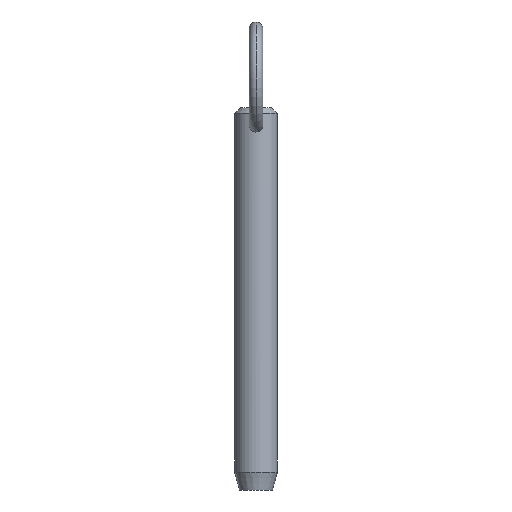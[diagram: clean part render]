
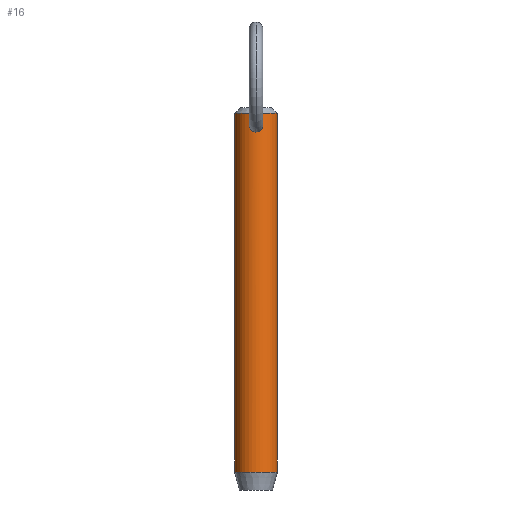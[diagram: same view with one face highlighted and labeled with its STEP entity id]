
A CAD part, front view. The second image highlights one B-rep face of the part: STEP entity #16.
In plain terms, the highlighted cylindrical face has radius 4.76 mm (diameter 9.52 mm), a partial arc.
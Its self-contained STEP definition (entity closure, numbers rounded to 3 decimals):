
#4 = CARTESIAN_POINT ( 'NONE',  ( 0.512, -4.733, 67.008 ) ) ;
#14 = AXIS2_PLACEMENT_3D ( 'NONE', #353, #233, #114 ) ;
#15 = DIRECTION ( 'NONE',  ( 1., 0., 0. ) ) ;
#16 = ADVANCED_FACE ( 'NONE', ( #397, #152 ), #157, .T. ) ;
#24 = CARTESIAN_POINT ( 'NONE',  ( 0., -4.76, 66.926 ) ) ;
#26 = CARTESIAN_POINT ( 'NONE',  ( -0.208, -4.757, 70.234 ) ) ;
#29 = CARTESIAN_POINT ( 'NONE',  ( -1.483, -4.524, 68.126 ) ) ;
#31 = CARTESIAN_POINT ( 'NONE',  ( -1.353, -4.564, 67.735 ) ) ;
#69 = CARTESIAN_POINT ( 'NONE',  ( -0.777, -4.7, 69.985 ) ) ;
#70 = CARTESIAN_POINT ( 'NONE',  ( -0.416, -4.746, 66.967 ) ) ;
#72 = CARTESIAN_POINT ( 'NONE',  ( -0.961, -4.663, 67.257 ) ) ;
#84 = CARTESIAN_POINT ( 'NONE',  ( 1.492, -4.52, 68.648 ) ) ;
#88 = CARTESIAN_POINT ( 'NONE',  ( 0., -4.76, 66.926 ) ) ;
#89 = CARTESIAN_POINT ( 'NONE',  ( 1.503, -4.517, 68.44 ) ) ;
#91 = CARTESIAN_POINT ( 'NONE',  ( 0.209, -4.756, 70.234 ) ) ;
#92 = CARTESIAN_POINT ( 'NONE',  ( 0.104, -4.76, 70.248 ) ) ;
#98 = EDGE_LOOP ( 'NONE', ( #417, #253 ) ) ;
#103 = CARTESIAN_POINT ( 'NONE',  ( -4.76, 0., 66. ) ) ;
#110 = CARTESIAN_POINT ( 'NONE',  ( -1.508, -4.515, 68.337 ) ) ;
#112 = VERTEX_POINT ( 'NONE', #476 ) ;
#114 = DIRECTION ( 'NONE',  ( -1., 0., 0. ) ) ;
#115 = CARTESIAN_POINT ( 'NONE',  ( -0.703, -4.709, 67.089 ) ) ;
#116 = CARTESIAN_POINT ( 'NONE',  ( 4.76, 0., -8.7 ) ) ;
#120 = DIRECTION ( 'NONE',  ( 0., 0., -1. ) ) ;
#122 = VECTOR ( 'NONE', #340, 1000. ) ;
#124 = CARTESIAN_POINT ( 'NONE',  ( 0.105, -4.76, 66.926 ) ) ;
#131 = CARTESIAN_POINT ( 'NONE',  ( 0.409, -4.743, 70.178 ) ) ;
#132 = CARTESIAN_POINT ( 'NONE',  ( 1.404, -4.548, 69.053 ) ) ;
#145 = ORIENTED_EDGE ( 'NONE', *, *, #438, .T. ) ;
#147 = DIRECTION ( 'NONE',  ( 0., 0., -1. ) ) ;
#151 = VECTOR ( 'NONE', #147, 1000. ) ;
#152 = FACE_BOUND ( 'NONE', #98, .T. ) ;
#157 = CYLINDRICAL_SURFACE ( 'NONE', #526, 4.76 ) ;
#161 = CARTESIAN_POINT ( 'NONE',  ( 0., 0., 66. ) ) ;
#169 = CARTESIAN_POINT ( 'NONE',  ( 0.687, -4.711, 70.035 ) ) ;
#172 = EDGE_CURVE ( 'NONE', #112, #305, #228, .T. ) ;
#190 = CARTESIAN_POINT ( 'NONE',  ( -0.103, -4.76, 70.248 ) ) ;
#194 = CARTESIAN_POINT ( 'NONE',  ( -1.487, -4.522, 68.753 ) ) ;
#207 = ORIENTED_EDGE ( 'NONE', *, *, #385, .T. ) ;
#211 = CARTESIAN_POINT ( 'NONE',  ( 0.506, -4.734, 70.137 ) ) ;
#213 = CARTESIAN_POINT ( 'NONE',  ( 1.178, -4.613, 67.476 ) ) ;
#228 = B_SPLINE_CURVE_WITH_KNOTS ( 'NONE', 3,
 ( #337, #92, #91, #131, #211, #169, #250, #521, #289, #524, #373, #132, #255, #372, #84, #89, #412, #366, #292, #446, #525, #370, #213, #489, #331, #4, #487, #483, #124, #88 ),
 .UNSPECIFIED., .F., .F.,
 ( 4, 2, 2, 2, 2, 2, 2, 2, 2, 2, 2, 2, 2, 2, 4 ),
 ( 0.004, 0.005, 0.005, 0.005, 0.006, 0.006, 0.007, 0.007, 0.007, 0.007, 0.008, 0.008, 0.009, 0.009, 0.009 ),
 .UNSPECIFIED. ) ;
#231 = LINE ( 'NONE', #375, #122 ) ;
#233 = DIRECTION ( 'NONE',  ( 0., 0., 1. ) ) ;
#237 = CIRCLE ( 'NONE', #313, 4.76 ) ;
#245 = DIRECTION ( 'NONE',  ( -1., 0., 0. ) ) ;
#250 = CARTESIAN_POINT ( 'NONE',  ( 0.77, -4.698, 69.975 ) ) ;
#253 = ORIENTED_EDGE ( 'NONE', *, *, #426, .T. ) ;
#255 = CARTESIAN_POINT ( 'NONE',  ( 1.434, -4.539, 68.954 ) ) ;
#259 = CARTESIAN_POINT ( 'NONE',  ( 0., -4.76, 66.926 ) ) ;
#266 = DIRECTION ( 'NONE',  ( 0., 0., -1. ) ) ;
#269 = EDGE_CURVE ( 'NONE', #441, #516, #231, .T. ) ;
#270 = CARTESIAN_POINT ( 'NONE',  ( -4.76, 0., 71.05 ) ) ;
#275 = CARTESIAN_POINT ( 'NONE',  ( -0.793, -4.694, 67.139 ) ) ;
#278 = CARTESIAN_POINT ( 'NONE',  ( -1.292, -4.582, 69.345 ) ) ;
#280 = CARTESIAN_POINT ( 'NONE',  ( -0.21, -4.76, 66.926 ) ) ;
#289 = CARTESIAN_POINT ( 'NONE',  ( 0.997, -4.655, 69.764 ) ) ;
#292 = CARTESIAN_POINT ( 'NONE',  ( 1.45, -4.534, 68.028 ) ) ;
#305 = VERTEX_POINT ( 'NONE', #259 ) ;
#310 = LINE ( 'NONE', #103, #151 ) ;
#313 = AXIS2_PLACEMENT_3D ( 'NONE', #460, #266, #15 ) ;
#317 = CARTESIAN_POINT ( 'NONE',  ( -1.19, -4.611, 69.524 ) ) ;
#318 = EDGE_LOOP ( 'NONE', ( #467, #369, #207, #145 ) ) ;
#319 = CARTESIAN_POINT ( 'NONE',  ( 0., -4.76, 70.248 ) ) ;
#320 = VERTEX_POINT ( 'NONE', #350 ) ;
#331 = CARTESIAN_POINT ( 'NONE',  ( 0.797, -4.697, 67.129 ) ) ;
#337 = CARTESIAN_POINT ( 'NONE',  ( 0., -4.76, 70.248 ) ) ;
#340 = DIRECTION ( 'NONE',  ( 0., 0., -1. ) ) ;
#350 = CARTESIAN_POINT ( 'NONE',  ( -4.76, 0., -8.7 ) ) ;
#353 = CARTESIAN_POINT ( 'NONE',  ( 0., 0., -8.7 ) ) ;
#366 = CARTESIAN_POINT ( 'NONE',  ( 1.473, -4.526, 68.131 ) ) ;
#369 = ORIENTED_EDGE ( 'NONE', *, *, #410, .T. ) ;
#370 = CARTESIAN_POINT ( 'NONE',  ( 1.24, -4.596, 67.56 ) ) ;
#372 = CARTESIAN_POINT ( 'NONE',  ( 1.478, -4.525, 68.752 ) ) ;
#373 = CARTESIAN_POINT ( 'NONE',  ( 1.293, -4.582, 69.342 ) ) ;
#375 = CARTESIAN_POINT ( 'NONE',  ( 4.76, 0., 66. ) ) ;
#385 = EDGE_CURVE ( 'NONE', #402, #320, #310, .T. ) ;
#395 = B_SPLINE_CURVE_WITH_KNOTS ( 'NONE', 3,
 ( #24, #280, #70, #115, #275, #72, #434, #511, #31, #29, #110, #194, #399, #278, #317, #433, #69, #470, #429, #26, #190, #319 ),
 .UNSPECIFIED., .F., .F.,
 ( 4, 2, 2, 2, 2, 2, 2, 2, 2, 2, 4 ),
 ( 0.009, 0.01, 0.01, 0.011, 0.011, 0.012, 0.012, 0.013, 0.014, 0.014, 0.014 ),
 .UNSPECIFIED. ) ;
#396 = CARTESIAN_POINT ( 'NONE',  ( 4.76, 0., 71.05 ) ) ;
#397 = FACE_OUTER_BOUND ( 'NONE', #318, .T. ) ;
#399 = CARTESIAN_POINT ( 'NONE',  ( -1.441, -4.537, 68.957 ) ) ;
#402 = VERTEX_POINT ( 'NONE', #270 ) ;
#410 = EDGE_CURVE ( 'NONE', #441, #402, #237, .T. ) ;
#412 = CARTESIAN_POINT ( 'NONE',  ( 1.499, -4.518, 68.337 ) ) ;
#417 = ORIENTED_EDGE ( 'NONE', *, *, #172, .T. ) ;
#426 = EDGE_CURVE ( 'NONE', #305, #112, #395, .T. ) ;
#429 = CARTESIAN_POINT ( 'NONE',  ( -0.409, -4.743, 70.178 ) ) ;
#433 = CARTESIAN_POINT ( 'NONE',  ( -0.932, -4.67, 69.845 ) ) ;
#434 = CARTESIAN_POINT ( 'NONE',  ( -1.039, -4.646, 67.326 ) ) ;
#438 = EDGE_CURVE ( 'NONE', #320, #516, #515, .T. ) ;
#441 = VERTEX_POINT ( 'NONE', #396 ) ;
#446 = CARTESIAN_POINT ( 'NONE',  ( 1.385, -4.554, 67.832 ) ) ;
#460 = CARTESIAN_POINT ( 'NONE',  ( 0., 0., 71.05 ) ) ;
#467 = ORIENTED_EDGE ( 'NONE', *, *, #269, .F. ) ;
#470 = CARTESIAN_POINT ( 'NONE',  ( -0.504, -4.734, 70.138 ) ) ;
#476 = CARTESIAN_POINT ( 'NONE',  ( 0., -4.76, 70.248 ) ) ;
#483 = CARTESIAN_POINT ( 'NONE',  ( 0.208, -4.757, 66.936 ) ) ;
#487 = CARTESIAN_POINT ( 'NONE',  ( 0.411, -4.743, 66.977 ) ) ;
#489 = CARTESIAN_POINT ( 'NONE',  ( 0.97, -4.662, 67.25 ) ) ;
#511 = CARTESIAN_POINT ( 'NONE',  ( -1.247, -4.596, 67.552 ) ) ;
#515 = CIRCLE ( 'NONE', #14, 4.76 ) ;
#516 = VERTEX_POINT ( 'NONE', #116 ) ;
#521 = CARTESIAN_POINT ( 'NONE',  ( 0.925, -4.67, 69.839 ) ) ;
#524 = CARTESIAN_POINT ( 'NONE',  ( 1.19, -4.611, 69.524 ) ) ;
#525 = CARTESIAN_POINT ( 'NONE',  ( 1.344, -4.567, 67.739 ) ) ;
#526 = AXIS2_PLACEMENT_3D ( 'NONE', #161, #120, #245 ) ;
